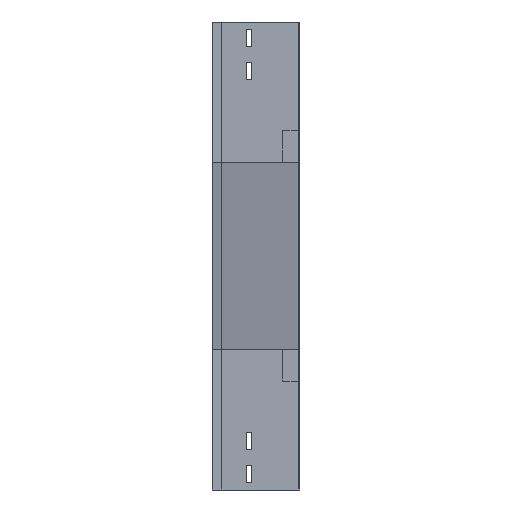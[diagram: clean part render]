
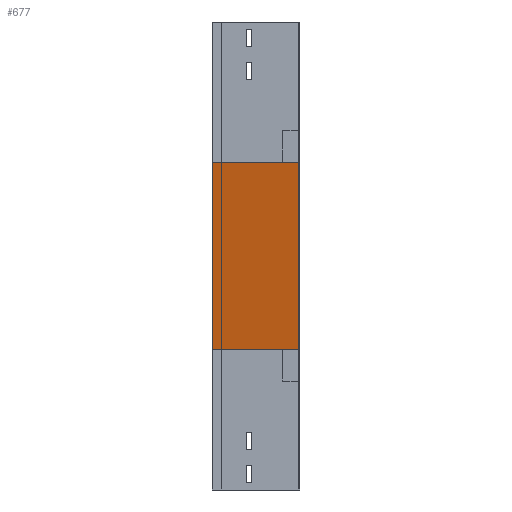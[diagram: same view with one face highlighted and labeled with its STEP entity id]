
A CAD part, left-side view. The second image highlights one B-rep face of the part: STEP entity #677.
In plain terms, the highlighted planar face has unit normal (-0.979, 0, -0.204).
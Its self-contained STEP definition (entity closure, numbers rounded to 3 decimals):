
#101 = DIRECTION ( 'NONE',  ( 0.979, 0., 0.204 ) ) ;
#187 = EDGE_CURVE ( 'NONE', #1690, #3706, #1617, .T. ) ;
#231 = VERTEX_POINT ( 'NONE', #3768 ) ;
#246 = DIRECTION ( 'NONE',  ( 0.204, 0., -0.979 ) ) ;
#251 = VERTEX_POINT ( 'NONE', #2845 ) ;
#449 = DIRECTION ( 'NONE',  ( 0.204, 0., -0.979 ) ) ;
#617 = EDGE_CURVE ( 'NONE', #1690, #251, #702, .T. ) ;
#677 = ADVANCED_FACE ( 'NONE', ( #2204 ), #2262, .F. ) ;
#702 = LINE ( 'NONE', #2855, #1715 ) ;
#732 = AXIS2_PLACEMENT_3D ( 'NONE', #3154, #101, #3431 ) ;
#747 = EDGE_CURVE ( 'NONE', #231, #3706, #2068, .T. ) ;
#973 = ORIENTED_EDGE ( 'NONE', *, *, #3460, .F. ) ;
#1025 = CARTESIAN_POINT ( 'NONE',  ( 0., 112.5, -180. ) ) ;
#1104 = CARTESIAN_POINT ( 'NONE',  ( 0., 0., -180. ) ) ;
#1261 = ORIENTED_EDGE ( 'NONE', *, *, #617, .F. ) ;
#1617 = LINE ( 'NONE', #1025, #3971 ) ;
#1690 = VERTEX_POINT ( 'NONE', #2137 ) ;
#1713 = LINE ( 'NONE', #1104, #2097 ) ;
#1715 = VECTOR ( 'NONE', #3133, 1000. ) ;
#2068 = LINE ( 'NONE', #2697, #2113 ) ;
#2097 = VECTOR ( 'NONE', #246, 1000. ) ;
#2113 = VECTOR ( 'NONE', #2323, 1000. ) ;
#2137 = CARTESIAN_POINT ( 'NONE',  ( 0., 112.5, -180. ) ) ;
#2204 = FACE_OUTER_BOUND ( 'NONE', #3605, .T. ) ;
#2262 = PLANE ( 'NONE',  #732 ) ;
#2323 = DIRECTION ( 'NONE',  ( 0., 1., 0. ) ) ;
#2697 = CARTESIAN_POINT ( 'NONE',  ( 50., 0., -420. ) ) ;
#2845 = CARTESIAN_POINT ( 'NONE',  ( 0., 0., -180. ) ) ;
#2855 = CARTESIAN_POINT ( 'NONE',  ( 0., 0., -180. ) ) ;
#2862 = ORIENTED_EDGE ( 'NONE', *, *, #747, .F. ) ;
#2920 = ORIENTED_EDGE ( 'NONE', *, *, #187, .T. ) ;
#3133 = DIRECTION ( 'NONE',  ( 0., -1., 0. ) ) ;
#3154 = CARTESIAN_POINT ( 'NONE',  ( 0., 0., -180. ) ) ;
#3421 = CARTESIAN_POINT ( 'NONE',  ( 50., 112.5, -420. ) ) ;
#3431 = DIRECTION ( 'NONE',  ( 0.204, 0., -0.979 ) ) ;
#3460 = EDGE_CURVE ( 'NONE', #251, #231, #1713, .T. ) ;
#3605 = EDGE_LOOP ( 'NONE', ( #973, #1261, #2920, #2862 ) ) ;
#3706 = VERTEX_POINT ( 'NONE', #3421 ) ;
#3768 = CARTESIAN_POINT ( 'NONE',  ( 50., 0., -420. ) ) ;
#3971 = VECTOR ( 'NONE', #449, 1000. ) ;
